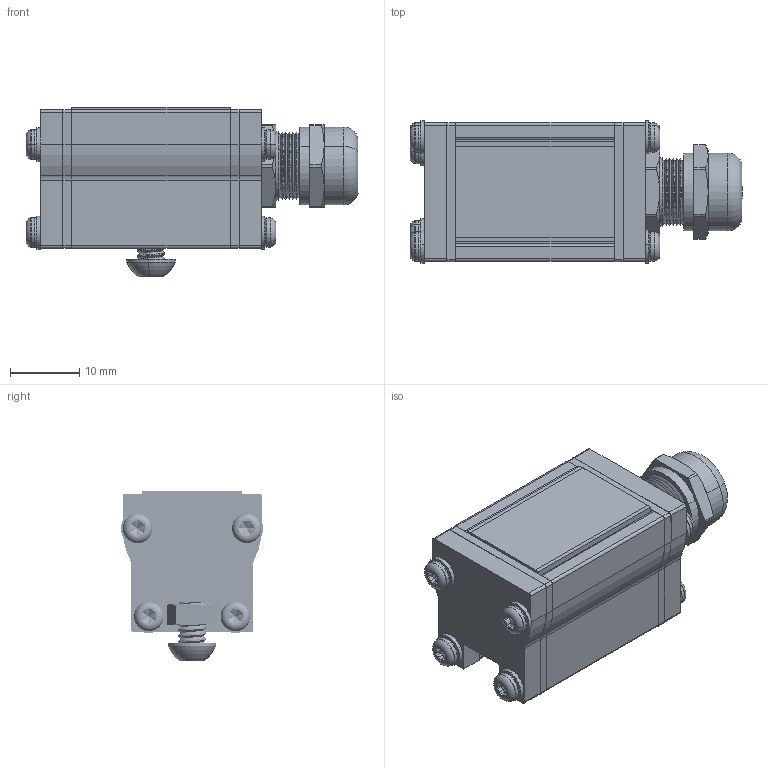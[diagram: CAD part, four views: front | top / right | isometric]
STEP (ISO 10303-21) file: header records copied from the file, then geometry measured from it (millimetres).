
FILE_DESCRIPTION (( 'STEP AP214' ), '1' );
FILE_NAME ('SL243 _SEALED__INSTALLATION MODEL.stp', '2021-07-16T19:46:05', ( '' ), ( '' ), 'SwSTEP 2.0', 'SolidWorks 2018', '' );
FILE_SCHEMA (( 'AUTOMOTIVE_DESIGN' ));
Length unit declared in the file: inch
Products named in the file (17): 097472; 097348_Default<As Machined>; 097210; 097220; 093469_093469; HN-M4_90592A016; 097366; 093659_093659; SL243 _SEALED__INSTALLATION MODEL; BH-M4x6; 090935; 097346; 090876; 091064_Model_Dome Fittings_Thread Type and Size(Dome)_M10 x 1.5_Hazardous Location-Explosive Proof(ATEX and EExe Versions)_No_; 097473; 90295A020; 090875
Assembly tree (32 placements, depth 2):
  SL243 _SEALED__INSTALLATION MODEL
    097210
    093469_093469  x2
    097366
    097472
    097473
    097348_Default<As Machined>
    097220
    097346
    090935  x2
    090876
    090875
    091064_Model_Dome Fittings_Thread Type and Size(Dome)_M10 x 1.5_Hazardous Location-Explosive Proof(ATEX and EExe Versions)_No_
    093659_093659  x8
    90295A020  x8
    BH-M4x6
    HN-M4_90592A016
Bounding box: 47.85 x 20.52 x 24.48 mm (x, y, z)
Volume: 10105.1 mm3; surface area: 15986.5 mm2
Topology: 33 solids, 33 shells, 1945 faces, 5198 edges, 3268 vertices
Faces by surface type: cylinder 1240, cone 325, plane 290, torus 58, bspline 32
Entity records: 25233 total; most frequent: CARTESIAN_POINT 8219, ORIENTED_EDGE 3430, DIRECTION 3277, EDGE_CURVE 1715, AXIS2_PLACEMENT_3D 1246, VERTEX_POINT 1084, VECTOR 785, LINE 785
